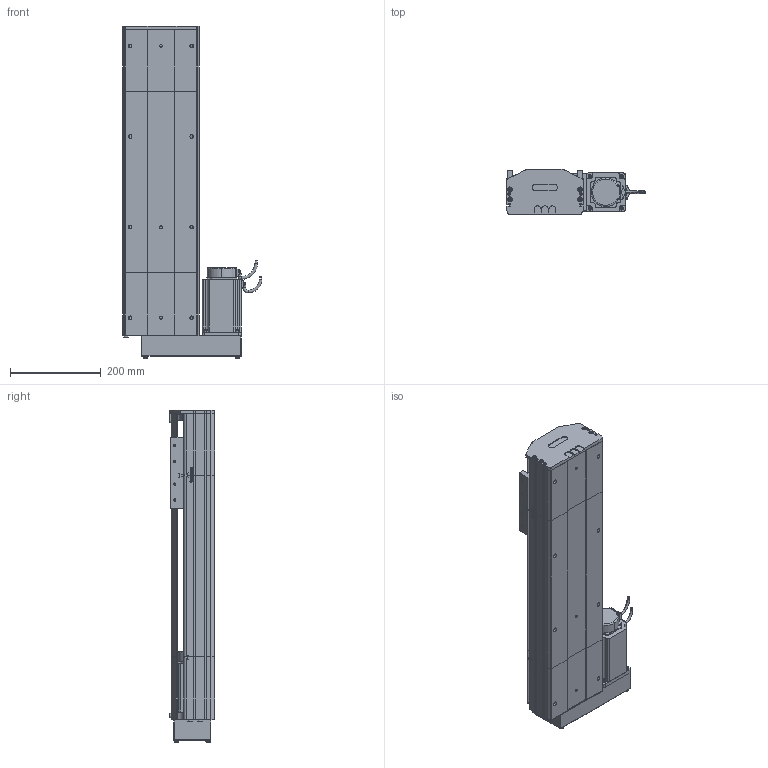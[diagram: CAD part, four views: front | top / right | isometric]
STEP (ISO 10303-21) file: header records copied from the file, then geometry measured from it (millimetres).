
FILE_DESCRIPTION (( 'STEP AP214' ), '1' );
FILE_NAME ('D17 TSH BL S400.STEP', '2010-06-29T14:47:13', ( 'Christophe Gaillard' ), ( 'SGA' ), 'SwSTEP 2.0', 'SolidWorks 2010', '' );
FILE_SCHEMA (( 'AUTOMOTIVE_DESIGN' ));
Length unit declared in the file: millimetre
Products named in the file (33): couvercle D17 head_Default; renvoi BL_Default; Vis M5 L16-2_Default; plaque de  bout BM head D17_Default; Conecteur_Default; Arbre+rail head D17; Conecteur2_Default; vis M5 L5_Default; codeur 90BLDC125-640; corps 90BLDC125A-640; avant 90BLDC125A-640; Moteur motionking 90BLDC125A-640; Cvis M5 L70_Default; guide D17; Chariot D17; chariot D17S_Default; vis M5 L12_Default; corpl head D17 BM_Default; head BL_Default; couvercle D17 course L400_Default; corpl tail D17_Default; vis M5 L8 90°_Default; couvercle D17_Default; Arbre+rail tail D17; vis M5 L25_Default; tete d''axe bas D17; D17 TSH BL S400; plaque de  bout tail D17_Default; Tail D17_Default; tete d''axe haut D17; corp D17 400_Default; arbre + rail D17 Course 400 ; course 400 D17_Default
Assembly tree (55 placements, depth 4):
  D17 TSH BL S400
    head BL_Default
      vis M5 L12_Default  x8
      plaque de  bout BM head D17_Default
      vis M5 L5_Default  x2
      Vis M5 L16-2_Default  x4
      Moteur motionking 90BLDC125A-640
        avant 90BLDC125A-640
        corps 90BLDC125A-640
        Conecteur_Default
        codeur 90BLDC125-640
        Conecteur2_Default
      corpl head D17 BM_Default
      Arbre+rail head D17
      couvercle D17 head_Default
      Cvis M5 L70_Default  x2
      renvoi BL_Default
    chariot D17S_Default
      vis M5 L12_Default  x4
      guide D17  x2
      Chariot D17
    Tail D17_Default
      vis M5 L25_Default  x2
      vis M5 L12_Default  x4
      plaque de  bout tail D17_Default
      tete d''axe bas D17
      vis M5 L8 90°_Default  x2
      tete d''axe haut D17
      Arbre+rail tail D17
      corpl tail D17_Default
      couvercle D17_Default
    course 400 D17_Default
      couvercle D17 course L400_Default
      arbre + rail D17 Course 400 
      corp D17 400_Default
Bounding box: 308.95 x 99.7 x 732.7 mm (x, y, z)
Volume: 5670059.3 mm3; surface area: 1385482.8 mm2
Topology: 80 solids, 80 shells, 2225 faces, 5561 edges, 3588 vertices
Faces by surface type: plane 1396, cylinder 552, bspline 136, torus 73, cone 64, sphere 4
Entity records: 71627 total; most frequent: CARTESIAN_POINT 22450, ORIENTED_EDGE 8630, DIRECTION 8092, EDGE_CURVE 4315, VECTOR 3020, LINE 3020, VERTEX_POINT 2834, AXIS2_PLACEMENT_3D 2536
